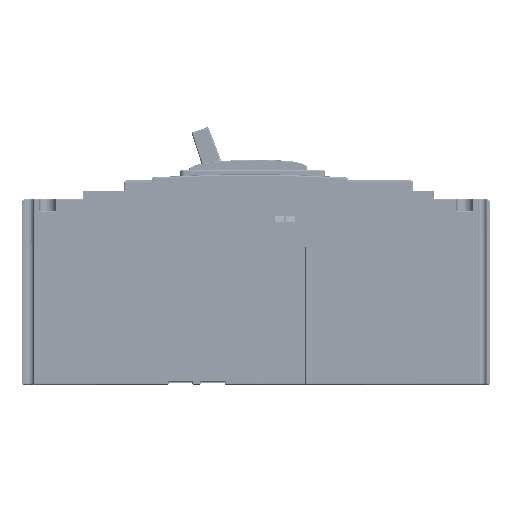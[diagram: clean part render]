
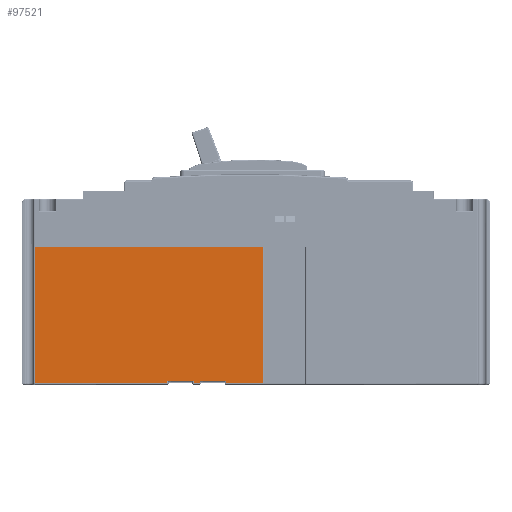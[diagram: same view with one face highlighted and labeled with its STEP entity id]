
A CAD part, left-side view. The second image highlights one B-rep face of the part: STEP entity #97521.
In plain terms, the highlighted planar face has unit normal (-1, 0, 0).
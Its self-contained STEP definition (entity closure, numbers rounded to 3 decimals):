
#82714=FACE_OUTER_BOUND('',#133206,.T.);
#97521=ADVANCED_FACE('',(#82714),#111948,.T.);
#111948=PLANE('',#355535);
#133206=EDGE_LOOP('',(#161767,#161768,#161769,#161770,#161771,#161772,#161773,
#161774,#161775,#161776,#161777,#161778));
#161767=ORIENTED_EDGE('',*,*,#255068,.T.);
#161768=ORIENTED_EDGE('',*,*,#255069,.T.);
#161769=ORIENTED_EDGE('',*,*,#255070,.T.);
#161770=ORIENTED_EDGE('',*,*,#255071,.T.);
#161771=ORIENTED_EDGE('',*,*,#255072,.T.);
#161772=ORIENTED_EDGE('',*,*,#255073,.T.);
#161773=ORIENTED_EDGE('',*,*,#255074,.T.);
#161774=ORIENTED_EDGE('',*,*,#255075,.T.);
#161775=ORIENTED_EDGE('',*,*,#255076,.T.);
#161776=ORIENTED_EDGE('',*,*,#255077,.F.);
#161777=ORIENTED_EDGE('',*,*,#255078,.F.);
#161778=ORIENTED_EDGE('',*,*,#255079,.T.);
#227796=VERTEX_POINT('',#457442);
#227797=VERTEX_POINT('',#457443);
#227798=VERTEX_POINT('',#457445);
#227799=VERTEX_POINT('',#457447);
#227800=VERTEX_POINT('',#457449);
#227801=VERTEX_POINT('',#457451);
#227802=VERTEX_POINT('',#457453);
#227803=VERTEX_POINT('',#457455);
#227804=VERTEX_POINT('',#457457);
#227805=VERTEX_POINT('',#457459);
#227806=VERTEX_POINT('',#457461);
#227807=VERTEX_POINT('',#457463);
#255068=EDGE_CURVE('',#227796,#227797,#291231,.T.);
#255069=EDGE_CURVE('',#227797,#227798,#291232,.T.);
#255070=EDGE_CURVE('',#227798,#227799,#291233,.T.);
#255071=EDGE_CURVE('',#227799,#227800,#291234,.T.);
#255072=EDGE_CURVE('',#227800,#227801,#291235,.T.);
#255073=EDGE_CURVE('',#227801,#227802,#291236,.T.);
#255074=EDGE_CURVE('',#227802,#227803,#291237,.T.);
#255075=EDGE_CURVE('',#227803,#227804,#291238,.T.);
#255076=EDGE_CURVE('',#227804,#227805,#291239,.T.);
#255077=EDGE_CURVE('',#227806,#227805,#291240,.T.);
#255078=EDGE_CURVE('',#227807,#227806,#291241,.T.);
#255079=EDGE_CURVE('',#227807,#227796,#291242,.T.);
#291231=LINE('',#457441,#324067);
#291232=LINE('',#457444,#324068);
#291233=LINE('',#457446,#324069);
#291234=LINE('',#457448,#324070);
#291235=LINE('',#457450,#324071);
#291236=LINE('',#457452,#324072);
#291237=LINE('',#457454,#324073);
#291238=LINE('',#457456,#324074);
#291239=LINE('',#457458,#324075);
#291240=LINE('',#457460,#324076);
#291241=LINE('',#457462,#324077);
#291242=LINE('',#457464,#324078);
#324067=VECTOR('',#384791,1.);
#324068=VECTOR('',#384792,1.);
#324069=VECTOR('',#384793,1.);
#324070=VECTOR('',#384794,1.);
#324071=VECTOR('',#384795,1.);
#324072=VECTOR('',#384796,1.);
#324073=VECTOR('',#384797,1.);
#324074=VECTOR('',#384798,1.);
#324075=VECTOR('',#384799,1.);
#324076=VECTOR('',#384800,1.);
#324077=VECTOR('',#384801,1.);
#324078=VECTOR('',#384802,1.);
#355535=AXIS2_PLACEMENT_3D('',#457465,#384803,#384804);
#384791=DIRECTION('',(0.,-1.,0.));
#384792=DIRECTION('',(0.,0.,1.));
#384793=DIRECTION('',(0.,-1.,0.));
#384794=DIRECTION('',(0.,0.,-1.));
#384795=DIRECTION('',(0.,-1.,0.));
#384796=DIRECTION('',(0.,0.,1.));
#384797=DIRECTION('',(0.,-1.,0.));
#384798=DIRECTION('',(0.,0.,-1.));
#384799=DIRECTION('',(0.,-1.,0.));
#384800=DIRECTION('',(0.,0.,-1.));
#384801=DIRECTION('',(0.,-1.,0.));
#384802=DIRECTION('',(0.,0.,-1.));
#384803=DIRECTION('',(-1.,0.,0.));
#384804=DIRECTION('',(0.,0.,-1.));
#457441=CARTESIAN_POINT('',(2376.571,51.702,15.41));
#457442=CARTESIAN_POINT('',(2376.571,148.986,15.41));
#457443=CARTESIAN_POINT('',(2376.571,52.702,15.41));
#457444=CARTESIAN_POINT('',(2376.571,52.702,114.41));
#457445=CARTESIAN_POINT('',(2376.571,52.702,17.41));
#457446=CARTESIAN_POINT('',(2376.571,34.502,17.41));
#457447=CARTESIAN_POINT('',(2376.571,33.502,17.41));
#457448=CARTESIAN_POINT('',(2376.571,33.502,15.41));
#457449=CARTESIAN_POINT('',(2376.571,33.502,15.41));
#457450=CARTESIAN_POINT('',(2376.571,28.202,15.41));
#457451=CARTESIAN_POINT('',(2376.571,29.202,15.41));
#457452=CARTESIAN_POINT('',(2376.571,29.202,17.41));
#457453=CARTESIAN_POINT('',(2376.571,29.202,17.41));
#457454=CARTESIAN_POINT('',(2376.571,11.002,17.41));
#457455=CARTESIAN_POINT('',(2376.571,10.002,17.41));
#457456=CARTESIAN_POINT('',(2376.571,10.002,114.41));
#457457=CARTESIAN_POINT('',(2376.571,10.002,15.41));
#457458=CARTESIAN_POINT('',(2376.571,-16.598,15.41));
#457459=CARTESIAN_POINT('',(2376.571,-16.598,15.41));
#457460=CARTESIAN_POINT('',(2376.571,-16.598,114.41));
#457461=CARTESIAN_POINT('',(2376.571,-16.598,114.41));
#457462=CARTESIAN_POINT('',(2376.571,154.202,114.41));
#457463=CARTESIAN_POINT('',(2376.571,148.986,114.41));
#457464=CARTESIAN_POINT('',(2376.571,148.986,15.41));
#457465=CARTESIAN_POINT('',(2376.571,-1.798,114.41));
